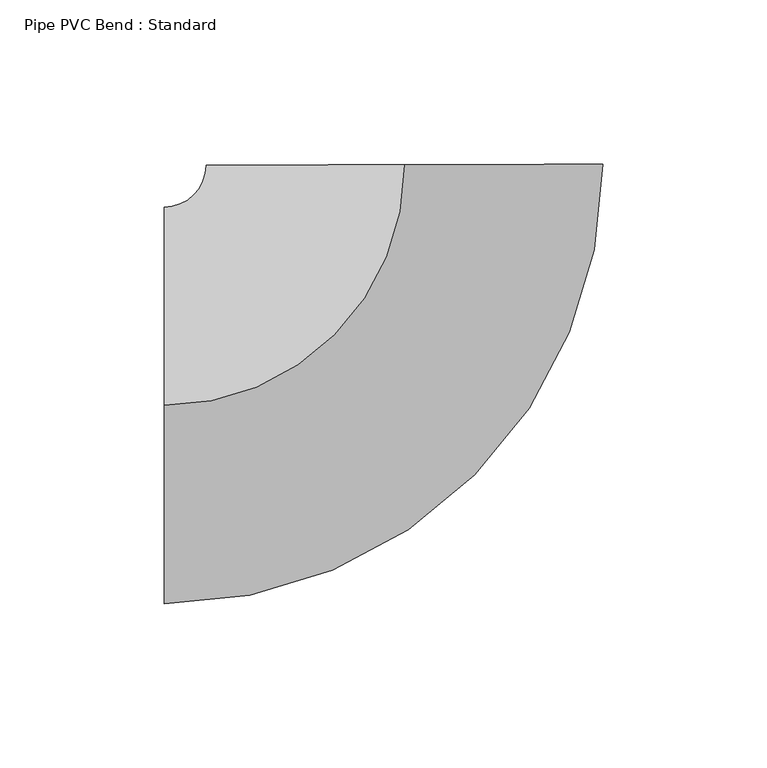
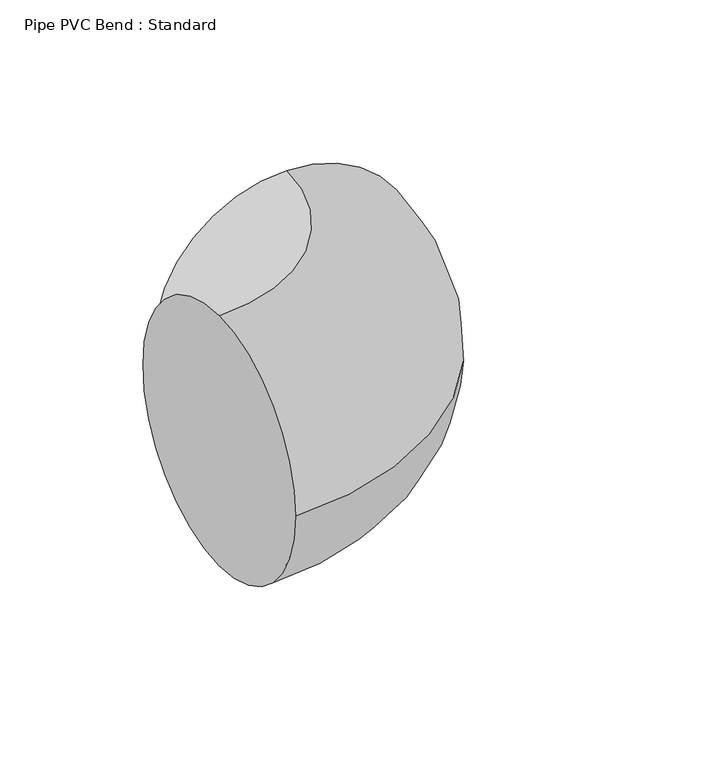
"""IFC4 building model written with IfcOpenShell, lengths in millimetres: pipe fitting geometry, Pipe PVC Bend : Standard."""

import ifcopenshell
import ifcopenshell.guid

model = None  # the IFC model being written
_history = None  # IfcOwnerHistory: only IFC2X3 demands one
_inside = {}  # id of a spatial element -> (the spatial element, [elements in it])
_under = {}  # id of a project, library or spatial element -> (it, [spatial elements below it])
_declared = {}  # id of a project -> (the project, [libraries it declares])
_typed = {}  # id of a type object -> (the type object, [elements of that type])
_made_of = {}  # id of a material, layer set ... -> (it, [elements and type objects made of it])


def new_model(schema):
    """Start an empty IFC model of exactly this schema.

    Asked for "IFC4X3", IfcOpenShell would pick the latest addendum, in which some entities
    have other attributes; the version numbers below select the first issue.
    IFC2X3 requires an IfcOwnerHistory on every rooted entity: one is made here for all.
    """
    global model, _history
    if schema == "IFC4X3":
        model = ifcopenshell.file(schema_version=(4, 3, 0, 0))
    else:
        model = ifcopenshell.file(schema=schema)
    _inside.clear()
    _under.clear()
    _declared.clear()
    _typed.clear()
    _made_of.clear()
    _history = None
    if model.schema == "IFC2X3":
        org = make("IfcOrganization", Name="unknown")
        user = make(
            "IfcPersonAndOrganization",
            ThePerson=make("IfcPerson", FamilyName="unknown"),
            TheOrganization=org,
        )
        app = make(
            "IfcApplication",
            ApplicationDeveloper=org,
            Version="unknown",
            ApplicationFullName="unknown",
            ApplicationIdentifier="unknown",
        )
        _history = make(
            "IfcOwnerHistory",
            OwningUser=user,
            OwningApplication=app,
            ChangeAction="ADDED",
            CreationDate=0,
        )
    return model


def make(cls, **values):
    """One entity of the class cls with the attributes given. An attribute that is None is left unset."""
    return model.create_entity(
        cls, **{name: value for name, value in values.items() if value is not None}
    )


def rooted(cls, **values):
    """An entity with a GlobalId (a new one), such as an element, a storey or a relation."""
    return make(cls, GlobalId=ifcopenshell.guid.new(), OwnerHistory=_history, **values)


def si_unit(unit_type, name, prefix=None):
    """IfcSIUnit, for example si_unit("LENGTHUNIT", "METRE", prefix="MILLI")."""
    return make("IfcSIUnit", UnitType=unit_type, Prefix=prefix, Name=name)


def assignment(units):
    """IfcUnitAssignment: the units of a project."""
    return None if units is None else make("IfcUnitAssignment", Units=units)


def point(xyz):
    """IfcCartesianPoint."""
    return None if xyz is None else make("IfcCartesianPoint", Coordinates=xyz)


def direction(xyz):
    """IfcDirection."""
    return None if xyz is None else make("IfcDirection", DirectionRatios=xyz)


def frame(location, z_axis=None, x_axis=None):
    """IfcAxis2Placement3D, a coordinate frame: its origin and axes. An axis left out is left unset."""
    return make(
        "IfcAxis2Placement3D",
        Location=point(location),
        Axis=direction(z_axis),
        RefDirection=direction(x_axis),
    )


def origin():
    """The frame at (0, 0, 0) with its axes left unset."""
    return frame((0.0, 0.0, 0.0))


def place(relative_to, where):
    """IfcLocalPlacement: puts the frame where relative to a parent placement (None: the world)."""
    return make(
        "IfcLocalPlacement", PlacementRelTo=relative_to, RelativePlacement=where
    )


def context(
    kind, dimensions, precision=None, world=None, true_north=None, identifier=None
):
    """IfcGeometricRepresentationContext, for example the 3D "Model" context."""
    return make(
        "IfcGeometricRepresentationContext",
        ContextIdentifier=identifier,
        ContextType=kind,
        CoordinateSpaceDimension=dimensions,
        Precision=precision,
        WorldCoordinateSystem=world,
        TrueNorth=true_north,
    )


def project(units=None, contexts=None):
    """IfcProject with its units and contexts."""
    return rooted(
        "IfcProject",
        Name="project",
        RepresentationContexts=contexts,
        UnitsInContext=assignment(units),
    )


def spatial(cls, under=None, at=None, **own):
    """A site, building, storey or space (cls), placed at a placement, below another one or the project."""
    s = rooted(cls, ObjectPlacement=at, **own)
    if under is not None:
        _under.setdefault(under.id(), (under, []))[1].append(s)
    return s


def circle_curve(where, radius):
    """IfcCircle in the frame where."""
    return make("IfcCircle", Position=where, Radius=radius)


def ellipse_curve(where, semi_axis1, semi_axis2):
    """IfcEllipse in the frame where."""
    return make(
        "IfcEllipse", Position=where, SemiAxis1=semi_axis1, SemiAxis2=semi_axis2
    )


def trimmed(basis, trim1, trim2, sense, master):
    """IfcTrimmedCurve: the piece of a basis curve between two trims."""
    return make(
        "IfcTrimmedCurve",
        BasisCurve=basis,
        Trim1=trim1,
        Trim2=trim2,
        SenseAgreement=sense,
        MasterRepresentation=master,
    )


def shape(context_of_items, identifier, shape_type, items):
    """IfcShapeRepresentation: the items that make up one representation, for example the "Body"."""
    return make(
        "IfcShapeRepresentation",
        ContextOfItems=context_of_items,
        RepresentationIdentifier=identifier,
        RepresentationType=shape_type,
        Items=items,
    )


def source(mapping_origin, context_of_items, identifier, shape_type, items):
    """IfcRepresentationMap: a shape defined once, which mapped items show again and again."""
    return make(
        "IfcRepresentationMap",
        MappingOrigin=mapping_origin,
        MappedRepresentation=shape(context_of_items, identifier, shape_type, items),
    )


def transform(
    local_origin,
    x_axis=None,
    y_axis=None,
    z_axis=None,
    scale=None,
    scale2=None,
    scale3=None,
    uniform=True,
):
    """IfcCartesianTransformationOperator3D, or its non-uniform kind. x_axis, y_axis, z_axis: its Axis1, 2, 3."""
    if uniform:
        return make(
            "IfcCartesianTransformationOperator3D",
            Axis1=direction(x_axis),
            Axis2=direction(y_axis),
            LocalOrigin=point(local_origin),
            Scale=scale,
            Axis3=direction(z_axis),
        )
    return make(
        "IfcCartesianTransformationOperator3DnonUniform",
        Axis1=direction(x_axis),
        Axis2=direction(y_axis),
        LocalOrigin=point(local_origin),
        Scale=scale,
        Axis3=direction(z_axis),
        Scale2=scale2,
        Scale3=scale3,
    )


def mapped(mapping_source, mapping_target):
    """IfcMappedItem: shows the shape of a source again, moved by a transform."""
    return make(
        "IfcMappedItem", MappingSource=mapping_source, MappingTarget=mapping_target
    )


def made_of(thing, what):
    """Note that an element or type object is made of a material, layer set ...; save() writes the relation."""
    if what is not None:
        _made_of.setdefault(what.id(), (what, []))[1].append(thing)
    return thing


def element(
    cls,
    number,
    at=None,
    inside=None,
    cuts=None,
    type_object=None,
    material=None,
    context=None,
    identifier="Body",
    shape_type=None,
    held_by="IfcProductDefinitionShape",
    body=None,
    shapes=None,
    **own,
):
    """One element of the class cls, such as IfcWall. Its Tag is "e" and its number.

    at: its placement. inside: the storey or other place that contains it. cuts: it is an
    opening in that element (IfcRelVoidsElement). A single representation is given by context,
    identifier, shape_type and body (its items); several are given by shapes. held_by: the class
    of the entity that holds the representations. save() writes the other relations.
    """
    e = rooted(cls, Tag="e%d" % number, ObjectPlacement=at, **own)
    if body is not None:
        shapes = [shape(context, identifier, shape_type, body)]
    if shapes is not None:
        e.Representation = make(held_by, Representations=shapes)
    if inside is not None:
        _inside.setdefault(inside.id(), (inside, []))[1].append(e)
    if cuts is not None:
        rooted(
            "IfcRelVoidsElement", RelatingBuildingElement=cuts, RelatedOpeningElement=e
        )
    if type_object is not None:
        _typed.setdefault(type_object.id(), (type_object, []))[1].append(e)
    return made_of(e, material)


def aggregate(whole, parts):
    """IfcRelAggregates: a whole, such as a stair, and the parts it consists of."""
    return rooted("IfcRelAggregates", RelatingObject=whole, RelatedObjects=parts)


def save(model, path):
    """Write the relations noted so far, then the file.

    IfcRelAggregates (storeys below a building ...), IfcRelContainedInSpatialStructure (elements
    in a storey), IfcRelDefinesByType, IfcRelAssociatesMaterial and IfcRelDeclares: one each for
    every whole, place, type object, material and project.
    """
    for whole, parts in _under.values():
        aggregate(whole, parts)
    for where, things in _inside.values():
        rooted(
            "IfcRelContainedInSpatialStructure",
            RelatedElements=things,
            RelatingStructure=where,
        )
    for kind, things in _typed.values():
        rooted("IfcRelDefinesByType", RelatedObjects=things, RelatingType=kind)
    for what, things in _made_of.values():
        rooted("IfcRelAssociatesMaterial", RelatedObjects=things, RelatingMaterial=what)
    for by, libraries in _declared.values():
        rooted("IfcRelDeclares", RelatingContext=by, RelatedDefinitions=libraries)
    model.write(path)


def plane_surface(at):
    """IfcPlane: the flat surface through the origin of the frame at, square to its z axis."""
    return make("IfcPlane", Position=at)


def revolved_surface(curve, axis_point, axis_direction):
    """IfcSurfaceOfRevolution: the curve turned about the line through axis_point along axis_direction."""
    return make(
        "IfcSurfaceOfRevolution",
        SweptCurve=make("IfcArbitraryOpenProfileDef", ProfileType="CURVE", Curve=curve),
        AxisPosition=make("IfcAxis1Placement", Location=point(axis_point), Axis=direction(axis_direction)),
    )


def advanced_brep(points, edges, surfaces, faces):
    """IfcAdvancedBrep: a solid bounded by faces that lie on surfaces and meet in shared edges.

    An edge is (start, end): straight between two places in points (the first is 0);
    or (start, end, curve); or (start, end, curve, False) where it runs against its curve.
    A face is (place in surfaces, loops), or (place, loops, False) where it looks against
    its surface's normal. A loop lists edges by number (the first is 1), with a minus sign
    where the edge is run from its end to its start. The first loop is the outer one.
    """
    corners = [point(p) for p in points]
    vertices = [make("IfcVertexPoint", VertexGeometry=c) for c in corners]
    made = []
    for start, end, *more in edges:
        made.append(
            make(
                "IfcEdgeCurve",
                EdgeStart=vertices[start],
                EdgeEnd=vertices[end],
                EdgeGeometry=more[0] if more else make("IfcPolyline", Points=[corners[start], corners[end]]),
                SameSense=more[1] if len(more) > 1 else True,
            )
        )
    hull = []
    for where, loops, *sense in faces:
        bounds = []
        for j, loop in enumerate(loops):
            ring = [make("IfcOrientedEdge", EdgeElement=made[abs(k) - 1], Orientation=k > 0) for k in loop]
            bounds.append(
                make(
                    "IfcFaceOuterBound" if j == 0 else "IfcFaceBound",
                    Bound=make("IfcEdgeLoop", EdgeList=ring),
                    Orientation=True,
                )
            )
        hull.append(make("IfcAdvancedFace", Bounds=bounds, FaceSurface=surfaces[where], SameSense=sense[0] if sense else True))
    return make("IfcAdvancedBrep", Outer=make("IfcClosedShell", CfsFaces=hull))


def pipe_pvc_bend_standard_5fa9d94a(model_context):
    return source(origin(), model_context, "Body", "AdvancedBrep", [
        advanced_brep(
        [(-73.2080696, 0.0, 60.325), (-73.2080696, 60.325, 0.0), (-73.2080696, 0.0, -60.325), (-73.2080696, -60.325, 0.0), (-0.1832985, 73.2078401, 60.325), (60.1415124, 73.358882, 0.0), (-0.1832985, 73.2078401, -60.325), (-60.5081094, 73.0567983, 0.0)],
        [
            (0, 1, circle_curve(frame((-73.2080696, 0.0, 0.0), z_axis=(-1.0, 0.0, 0.0), x_axis=(0.0, 1.0, 0.0)), 60.325)),
            (1, 2, circle_curve(frame((-73.2080696, 0.0, 0.0), z_axis=(-1.0, 0.0, 0.0), x_axis=(0.0, 1.0, 0.0)), 60.325)),
            (2, 3, circle_curve(frame((-73.2080696, 0.0, 0.0), z_axis=(-1.0, 0.0, 0.0), x_axis=(0.0, 1.0, 0.0)), 60.325)),
            (3, 0, circle_curve(frame((-73.2080696, 0.0, 0.0), z_axis=(-1.0, 0.0, 0.0), x_axis=(0.0, 1.0, 0.0)), 60.325)),
            (4, 5, circle_curve(frame((-0.1832985, 73.2078401, 0.0), z_axis=(-0.0025038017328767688, 0.9999968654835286, 0.0), x_axis=(-0.9999968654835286, -0.0025038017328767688, 0.0)), 60.325)),
            (5, 6, circle_curve(frame((-0.1832985, 73.2078401, 0.0), z_axis=(-0.0025038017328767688, 0.9999968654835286, 0.0), x_axis=(-0.9999968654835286, -0.0025038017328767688, 0.0)), 60.325)),
            (6, 7, circle_curve(frame((-0.1832985, 73.2078401, 0.0), z_axis=(-0.0025038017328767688, 0.9999968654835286, 0.0), x_axis=(-0.9999968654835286, -0.0025038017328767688, 0.0)), 60.325)),
            (7, 4, circle_curve(frame((-0.1832985, 73.2078401, 0.0), z_axis=(-0.0025038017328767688, 0.9999968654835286, 0.0), x_axis=(-0.9999968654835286, -0.0025038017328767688, 0.0)), 60.325)),
            (7, 1, circle_curve(frame((-73.2080696, 73.025, 0.0), z_axis=(0.0, 0.0, -1.0), x_axis=(0.0, -1.0, 0.0)), 12.7)),
            (0, 4, circle_curve(frame((-73.2080696, 73.025, 60.325), z_axis=(0.0, 0.0, 1.0), x_axis=(0.0, -1.0, 0.0)), 73.025)),
            (6, 2, circle_curve(frame((-73.2080696, 73.025, -60.325), z_axis=(0.0, 0.0, -1.0), x_axis=(0.0, -1.0, 0.0)), 73.025)),
            (5, 3, circle_curve(frame((-73.2080696, 73.025, 0.0), z_axis=(0.0, 0.0, -1.0), x_axis=(0.0, -1.0, 0.0)), 133.35)),
        ],
        [
            plane_surface(frame((-73.2080696, 0.0, 0.0), z_axis=(-1.0, 0.0, 0.0), x_axis=(0.0, 0.0, 1.0))),
            plane_surface(frame((-0.1832985, 73.2078401, 0.0), z_axis=(-0.0025038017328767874, 0.9999968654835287, 0.0), x_axis=(0.0, 0.0, 1.0))),
            revolved_surface(trimmed(ellipse_curve(frame((-73.2080696, 0.0, 0.0), z_axis=(-1.0, 0.0, 0.0), x_axis=(0.0, 1.0, 0.0)), 60.325, 60.325), [point((-73.2080696, 0.0, 60.325))], [point((-73.2080696, 60.325, 0.0))], True, "CARTESIAN"), (-73.2080696, 73.025, 0.0), (0.0, 0.0, 1.0)),
            revolved_surface(trimmed(ellipse_curve(frame((-73.2080696, 0.0, 0.0), z_axis=(-1.0, 0.0, 0.0), x_axis=(0.0, 1.0, 0.0)), 60.325, 60.325), [point((-73.2080696, 60.325, 0.0))], [point((-73.2080696, 0.0, -60.325))], True, "CARTESIAN"), (-73.2080696, 73.025, 0.0), (0.0, 0.0, 1.0)),
            revolved_surface(trimmed(ellipse_curve(frame((-73.2080696, 0.0, 0.0), z_axis=(-1.0, 0.0, 0.0), x_axis=(0.0, 1.0, 0.0)), 60.325, 60.325), [point((-73.2080696, 0.0, -60.325))], [point((-73.2080696, -60.325, 0.0))], True, "CARTESIAN"), (-73.2080696, 73.025, 0.0), (0.0, 0.0, 1.0)),
            revolved_surface(trimmed(ellipse_curve(frame((-73.2080696, 0.0, 0.0), z_axis=(-1.0, 0.0, 0.0), x_axis=(0.0, 1.0, 0.0)), 60.325, 60.325), [point((-73.2080696, -60.325, 0.0))], [point((-73.2080696, 0.0, 60.325))], True, "CARTESIAN"), (-73.2080696, 73.025, 0.0), (0.0, 0.0, 1.0)),
        ],
        [
            (0, [[1, 2, 3, 4]]),
            (1, [[5, 6, 7, 8]]),
            (2, [[9, -1, 10, -8]]),
            (3, [[11, -2, -9, -7]]),
            (4, [[12, -3, -11, -6]]),
            (5, [[-10, -4, -12, -5]]),
        ],
    ),
        advanced_brep(
        [(-73.2080696, 0.0, 60.325), (-73.2080696, 60.325, 0.0), (-73.2080696, 0.0, -60.325), (-73.2080696, -60.325, 0.0), (-0.1832985, 73.2078401, 60.325), (60.1415124, 73.358882, 0.0), (-0.1832985, 73.2078401, -60.325), (-60.5081094, 73.0567983, 0.0)],
        [
            (0, 1, circle_curve(frame((-73.2080696, 0.0, 0.0), z_axis=(-1.0, 0.0, 0.0), x_axis=(0.0, 1.0, 0.0)), 60.325)),
            (1, 2, circle_curve(frame((-73.2080696, 0.0, 0.0), z_axis=(-1.0, 0.0, 0.0), x_axis=(0.0, 1.0, 0.0)), 60.325)),
            (2, 3, circle_curve(frame((-73.2080696, 0.0, 0.0), z_axis=(-1.0, 0.0, 0.0), x_axis=(0.0, 1.0, 0.0)), 60.325)),
            (3, 0, circle_curve(frame((-73.2080696, 0.0, 0.0), z_axis=(-1.0, 0.0, 0.0), x_axis=(0.0, 1.0, 0.0)), 60.325)),
            (4, 5, circle_curve(frame((-0.1832985, 73.2078401, 0.0), z_axis=(-0.0025038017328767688, 0.9999968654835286, 0.0), x_axis=(-0.9999968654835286, -0.0025038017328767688, 0.0)), 60.325)),
            (5, 6, circle_curve(frame((-0.1832985, 73.2078401, 0.0), z_axis=(-0.0025038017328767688, 0.9999968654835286, 0.0), x_axis=(-0.9999968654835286, -0.0025038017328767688, 0.0)), 60.325)),
            (6, 7, circle_curve(frame((-0.1832985, 73.2078401, 0.0), z_axis=(-0.0025038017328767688, 0.9999968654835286, 0.0), x_axis=(-0.9999968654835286, -0.0025038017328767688, 0.0)), 60.325)),
            (7, 4, circle_curve(frame((-0.1832985, 73.2078401, 0.0), z_axis=(-0.0025038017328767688, 0.9999968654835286, 0.0), x_axis=(-0.9999968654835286, -0.0025038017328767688, 0.0)), 60.325)),
            (7, 1, circle_curve(frame((-73.2080696, 73.025, 0.0), z_axis=(0.0, 0.0, -1.0), x_axis=(0.0, -1.0, 0.0)), 12.7)),
            (0, 4, circle_curve(frame((-73.2080696, 73.025, 60.325), z_axis=(0.0, 0.0, 1.0), x_axis=(0.0, -1.0, 0.0)), 73.025)),
            (6, 2, circle_curve(frame((-73.2080696, 73.025, -60.325), z_axis=(0.0, 0.0, -1.0), x_axis=(0.0, -1.0, 0.0)), 73.025)),
            (5, 3, circle_curve(frame((-73.2080696, 73.025, 0.0), z_axis=(0.0, 0.0, -1.0), x_axis=(0.0, -1.0, 0.0)), 133.35)),
        ],
        [
            plane_surface(frame((-73.2080696, 0.0, 0.0), z_axis=(-1.0, 0.0, 0.0), x_axis=(0.0, 0.0, 1.0))),
            plane_surface(frame((-0.1832985, 73.2078401, 0.0), z_axis=(-0.0025038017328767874, 0.9999968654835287, 0.0), x_axis=(0.0, 0.0, 1.0))),
            revolved_surface(trimmed(ellipse_curve(frame((-73.2080696, 0.0, 0.0), z_axis=(-1.0, 0.0, 0.0), x_axis=(0.0, 1.0, 0.0)), 60.325, 60.325), [point((-73.2080696, 0.0, 60.325))], [point((-73.2080696, 60.325, 0.0))], True, "CARTESIAN"), (-73.2080696, 73.025, 0.0), (0.0, 0.0, 1.0)),
            revolved_surface(trimmed(ellipse_curve(frame((-73.2080696, 0.0, 0.0), z_axis=(-1.0, 0.0, 0.0), x_axis=(0.0, 1.0, 0.0)), 60.325, 60.325), [point((-73.2080696, 60.325, 0.0))], [point((-73.2080696, 0.0, -60.325))], True, "CARTESIAN"), (-73.2080696, 73.025, 0.0), (0.0, 0.0, 1.0)),
            revolved_surface(trimmed(ellipse_curve(frame((-73.2080696, 0.0, 0.0), z_axis=(-1.0, 0.0, 0.0), x_axis=(0.0, 1.0, 0.0)), 60.325, 60.325), [point((-73.2080696, 0.0, -60.325))], [point((-73.2080696, -60.325, 0.0))], True, "CARTESIAN"), (-73.2080696, 73.025, 0.0), (0.0, 0.0, 1.0)),
            revolved_surface(trimmed(ellipse_curve(frame((-73.2080696, 0.0, 0.0), z_axis=(-1.0, 0.0, 0.0), x_axis=(0.0, 1.0, 0.0)), 60.325, 60.325), [point((-73.2080696, -60.325, 0.0))], [point((-73.2080696, 0.0, 60.325))], True, "CARTESIAN"), (-73.2080696, 73.025, 0.0), (0.0, 0.0, 1.0)),
        ],
        [
            (0, [[1, 2, 3, 4]]),
            (1, [[5, 6, 7, 8]]),
            (2, [[9, -1, 10, -8]]),
            (3, [[11, -2, -9, -7]]),
            (4, [[12, -3, -11, -6]]),
            (5, [[-10, -4, -12, -5]]),
        ],
    ),
    ])


if __name__ == "__main__":
    model = new_model("IFC4")
    model_context = context("Model", 3, world=origin())
    ifc_project = project(units=[si_unit("LENGTHUNIT", "METRE", prefix="MILLI")], contexts=[model_context])
    site = spatial("IfcSite", under=ifc_project)
    building = spatial("IfcBuilding", under=site)
    placement = place(None, origin())
    pipe_pvc_bend_standard_shape = pipe_pvc_bend_standard_5fa9d94a(model_context)
    element("IfcPipeFitting", 1, ObjectType="Pipe PVC Bend : Standard", at=placement, inside=building, context=model_context, shape_type="MappedRepresentation", body=[
        mapped(pipe_pvc_bend_standard_shape, transform((0.0, 0.0, 0.0), x_axis=(1.0, 0.0, 0.0), y_axis=(0.0, 1.0, 0.0), z_axis=(0.0, 0.0, 1.0))),
    ])
    save(model, "model.ifc")
